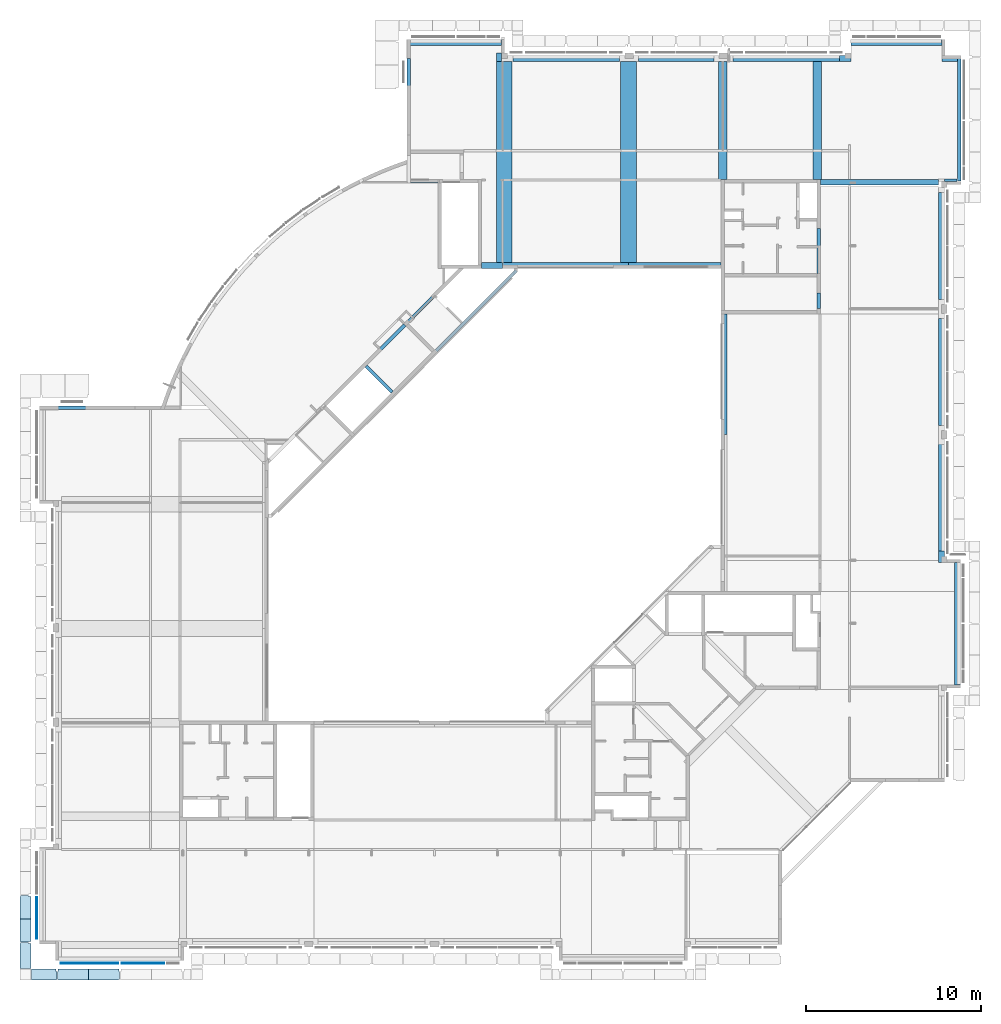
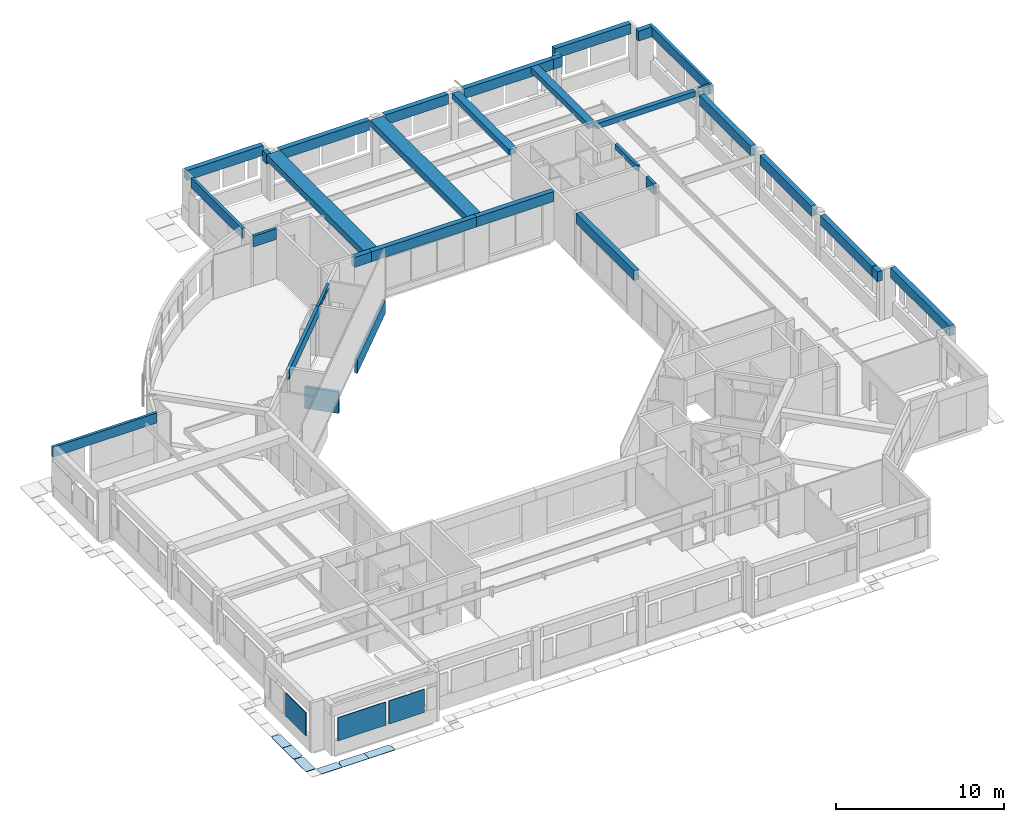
# One storey, part 3 of 26: 33 beams, 6 slabs, 3 plates, 1 element without a shape of its own.
"""IFC4X3_ADD2 building model written with IfcOpenShell, lengths in millimetres."""

from ifc_helpers import new_model, si_unit, direction, frame, frame_2d, origin_with_axes, origin_2d_with_axis, place, context, subcontext, project, spatial, polyline, rectangle, outline, extrude, source, transform, mapped, material, type_object, type_shapes, element, aggregate, save


model = new_model("IFC4X3_ADD2")

# Units and contexts
model_context = context("Model", 3, precision=1e-05, world=origin_with_axes(), true_north=direction((0.0, 1.0)))
body_context = subcontext(model_context, "Body", "Model", "MODEL_VIEW")
ifc_project = project(units=[si_unit("LENGTHUNIT", "METRE", prefix="MILLI"), si_unit("AREAUNIT", "SQUARE_METRE"), si_unit("VOLUMEUNIT", "CUBIC_METRE"), si_unit("PLANEANGLEUNIT", "RADIAN"), si_unit("TIMEUNIT", "SECOND"), si_unit("MASSUNIT", "GRAM")], contexts=[model_context])

# Site, building, storey
site_placement = place(None, origin_with_axes())
site = spatial("IfcSite", under=ifc_project, at=site_placement, Name="Site", CompositionType="ELEMENT")
building_placement = place(site_placement, origin_with_axes())
building = spatial("IfcBuilding", under=site, at=building_placement, Name="IFC Building Story")
storey_placement = place(building_placement, frame((0.0, 0.0, 7200.0), z_axis=(0.0, 0.0, 1.0), x_axis=(1.0, 0.0, 0.0)))
storey = spatial("IfcBuildingStorey", under=building, at=storey_placement, Name="020", Elevation=7200.0)

# Beams
ifc_material_1 = material(Name="BB_Beton_Bestaand")
beam_type_1 = type_object("IfcBeamType", Name="BB_XX_Betonbalk_ rechthoekig_ center-center_SFB_340 x 720 mm1", PredefinedType="NOTDEFINED")
shared_shape_1 = source(origin_with_axes(), body_context, "Body", "SweptSolid", [
    extrude(rectangle(XDim=5209.99999999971, YDim=340.0, at=origin_2d_with_axis()), frame((-1.450644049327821e-10, 0.0, -360.0), z_axis=(0.0, 0.0, 1.0), x_axis=(1.0, 0.0, 0.0)), (0.0, 0.0, 1.0), 720.0),
])
type_shapes(beam_type_1, [shared_shape_1])
beam_1_placement = place(storey_placement, frame((-2665.0, 51525.0, 3040.0), z_axis=(0.0, 0.0, 1.0), x_axis=(1.0, 0.0, 0.0)))
element("IfcBeam", 1, at=beam_1_placement, inside=storey, type_object=beam_type_1, material=ifc_material_1, Name="BB_XX_Betonbalk, rechthoekig, center-center_SFB:340 x 720 mm", ObjectType="340 x 720 mm", PredefinedType="BEAM", context=body_context, shape_type="MappedRepresentation", body=[
    mapped(shared_shape_1, transform((0.0, 0.0, 0.0))),
])
beam_type_2 = type_object("IfcBeamType", Name="BB_XX_Betonbalk_ rechthoekig_ center-center_SFB_340 x 720 mm33", PredefinedType="NOTDEFINED")
shared_shape_2 = source(origin_with_axes(), body_context, "Body", "SweptSolid", [
    extrude(rectangle(XDim=5299.99593411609, YDim=340.0, at=origin_2d_with_axis()), frame((-5.002220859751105e-12, 0.0, -360.0), z_axis=(0.0, 0.0, 1.0), x_axis=(1.0, 0.0, 0.0)), (0.0, 0.0, 1.0), 720.0),
])
type_shapes(beam_type_2, [shared_shape_2])
beam_2_placement = place(storey_placement, frame((-15350.002032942, 38775.0, 3040.0), z_axis=(0.0, 0.0, 1.0), x_axis=(-1.0, 0.0, 0.0)))
element("IfcBeam", 2, at=beam_2_placement, inside=storey, type_object=beam_type_2, material=ifc_material_1, Name="BB_XX_Betonbalk, rechthoekig, center-center_SFB:340 x 720 mm", ObjectType="340 x 720 mm", PredefinedType="BEAM", context=body_context, shape_type="MappedRepresentation", body=[
    mapped(shared_shape_2, transform((0.0, 0.0, 0.0))),
])
beam_type_3 = type_object("IfcBeamType", Name="BB_XX_Betonbalk_ rechthoekig_ center-center_SFB_340 x 720 mm55", PredefinedType="NOTDEFINED")
shared_shape_3 = source(origin_with_axes(), body_context, "Body", "SweptSolid", [
    extrude(rectangle(XDim=6900.00000000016, YDim=340.0, at=origin_2d_with_axis()), frame((-5.002220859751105e-12, 0.0, -360.0), z_axis=(0.0, 0.0, 1.0), x_axis=(1.0, 0.0, 0.0)), (0.0, 0.0, 1.0), 720.0),
])
type_shapes(beam_type_3, [shared_shape_3])
beam_3_placement = place(storey_placement, frame((-12525.0040658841, 32550.0, 3040.0), z_axis=(0.0, 0.0, 1.0), x_axis=(0.0, 1.0, 0.0)))
element("IfcBeam", 3, at=beam_3_placement, inside=storey, type_object=beam_type_3, material=ifc_material_1, Name="BB_XX_Betonbalk, rechthoekig, center-center_SFB:340 x 720 mm", ObjectType="340 x 720 mm", PredefinedType="BEAM", context=body_context, shape_type="MappedRepresentation", body=[
    mapped(shared_shape_3, transform((0.0, 0.0, 0.0))),
])
beam_type_4 = type_object("IfcBeamType", Name="BB_XX_Betonbalk_ rechthoekig_ center-center_SFB_200 x 380 mm", PredefinedType="NOTDEFINED")
shared_shape_4 = source(origin_with_axes(), body_context, "Body", "SweptSolid", [
    extrude(rectangle(XDim=2599.99999999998, YDim=200.0, at=origin_2d_with_axis()), frame((-1.000444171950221e-11, 0.0, -190.0), z_axis=(0.0, 0.0, 1.0), x_axis=(1.0, 0.0, 0.0)), (0.0, 0.0, 1.0), 380.0),
])
type_shapes(beam_type_4, [shared_shape_4])
beam_4_placement = place(storey_placement, frame((-7100.0, 39600.0, 3330.0), z_axis=(0.0, 0.0, 1.0), x_axis=(0.0, 1.0, 0.0)))
element("IfcBeam", 4, at=beam_4_placement, inside=storey, type_object=beam_type_4, material=ifc_material_1, Name="BB_XX_Betonbalk, rechthoekig, center-center_SFB:200 x 380 mm", ObjectType="200 x 380 mm", PredefinedType="BEAM", context=body_context, shape_type="MappedRepresentation", body=[
    mapped(shared_shape_4, transform((0.0, 0.0, 0.0))),
])

# Assembly, beam
assembly_placement = place(storey_placement, frame((0.0, 0.0, -7200.0), z_axis=(0.0, 0.0, 1.0), x_axis=(1.0, 0.0, 0.0)))
assembly = element("IfcElementAssembly", 5, at=assembly_placement, inside=storey, Name="Structural Connections Assembly:IPE360 + plaat", ObjectType="Structural Connections Assembly:IPE360 + plaat", AssemblyPlace="NOTDEFINED", PredefinedType="USERDEFINED")
ifc_material_2 = material(Name="Metal - Steel - 345 MPa")
beam_type_5 = type_object("IfcBeamType", Name="IPE-Beams_IPE360", PredefinedType="NOTDEFINED")
shared_shape_5 = source(origin_with_axes(), body_context, "Body", "SweptSolid", [
    extrude(outline(polyline([(179.9999999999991, 85.0), (179.9999999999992, -84.9999999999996), (167.3000000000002, -84.9999999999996), (167.3000000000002, -4.0), (-167.2999999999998, -4.0), (-167.2999999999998, -85.0), (-179.9999999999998, -85.0), (-179.9999999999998, 85.0), (-167.2999999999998, 85.0), (-167.2999999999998, 3.999999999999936), (167.3000000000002, 3.999999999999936), (167.3000000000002, 85.0), (179.9999999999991, 85.0)])), frame((-925.267324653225, 0.0, 0.0), z_axis=(1.0, 0.0, 0.0), x_axis=(0.0, 0.0, 1.0)), (0.0, 0.0, 1.0), 2419.99999999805),
])
type_shapes(beam_type_5, [shared_shape_5])
beam_5_placement = place(assembly_placement, frame((-29732.7817459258, 36421.6338417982, 10430.0), z_axis=(0.0, 0.0, 1.0), x_axis=(-0.7071067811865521, -0.707106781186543, 0.0)))
beam_5 = element("IfcBeam", 6, at=beam_5_placement, type_object=beam_type_5, material=ifc_material_2, Name="IPE-Beams:IPE360", ObjectType="IPE360", PredefinedType="BEAM", context=body_context, shape_type="MappedRepresentation", body=[
    mapped(shared_shape_5, transform((0.0, 0.0, 0.0))),
])
aggregate(assembly, [beam_5])

# Beams
beam_type_6 = type_object("IfcBeamType", Name="BB_XX_Betonbalk_ rechthoekig_ center-center_SFB_340 x 720 mm101", PredefinedType="NOTDEFINED")
shared_shape_6 = source(origin_with_axes(), body_context, "Body", "SweptSolid", [
    extrude(rectangle(XDim=6109.99999999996, YDim=340.0, at=origin_2d_with_axis()), frame((-5.002220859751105e-12, 0.0, -360.0), z_axis=(0.0, 0.0, 1.0), x_axis=(1.0, 0.0, 0.0)), (0.0, 0.0, 1.0), 720.0),
])
type_shapes(beam_type_6, [shared_shape_6])
for number, where, z_axis, x_axis in (
    (7, (-75.0, 25500.0, 3040.0), (0.0, 0.0, 1.0), (0.0, -1.0, 0.0)),
    (8, (-75.0, 32680.0, 3040.0), (0.0, 0.0, 1.0), (0.0, -1.0, 0.0)),
    (9, (-75.0, 39880.0, 3040.0), (0.0, 0.0, 1.0), (0.0, -1.0, 0.0)),
    (10, (-8965.0, 50625.0, 3040.0), (0.0, 0.0, 1.0), (1.0, 0.0, 0.0)),
):
    element("IfcBeam", number, at=place(storey_placement, frame(where, z_axis=z_axis, x_axis=x_axis)), inside=storey, type_object=beam_type_6, material=ifc_material_1, Name="BB_XX_Betonbalk, rechthoekig, center-center_SFB:340 x 720 mm", ObjectType="340 x 720 mm", PredefinedType="BEAM", context=body_context, shape_type="MappedRepresentation", body=[
        mapped(shared_shape_6, transform((0.0, 0.0, 0.0))),
    ])
beam_type_7 = type_object("IfcBeamType", Name="BB_XX_Betonbalk_ rechthoekig_ center-center_SFB_340 x 720 mm105", PredefinedType="NOTDEFINED")
shared_shape_7 = source(origin_with_axes(), body_context, "Body", "SweptSolid", [
    extrude(rectangle(XDim=4309.99999999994, YDim=340.0, at=origin_2d_with_axis()), frame((-5.002220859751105e-12, 0.0, -360.0), z_axis=(0.0, 0.0, 1.0), x_axis=(1.0, 0.0, 0.0)), (0.0, 0.0, 1.0), 720.0),
])
type_shapes(beam_type_7, [shared_shape_7])
beam_6_placement = place(storey_placement, frame((-15265.0, 50625.0, 3040.0), z_axis=(0.0, 0.0, 1.0), x_axis=(1.0, 0.0, 0.0)))
element("IfcBeam", 11, at=beam_6_placement, inside=storey, type_object=beam_type_7, material=ifc_material_1, Name="BB_XX_Betonbalk, rechthoekig, center-center_SFB:340 x 720 mm", ObjectType="340 x 720 mm", PredefinedType="BEAM", context=body_context, shape_type="MappedRepresentation", body=[
    mapped(shared_shape_7, transform((0.0, 0.0, 0.0))),
])
beam_type_8 = type_object("IfcBeamType", Name="BB_XX_Betonbalk_ rechthoekig_ center-center_SFB_340 x 720 mm117", PredefinedType="NOTDEFINED")
shared_shape_8 = source(origin_with_axes(), body_context, "Body", "SweptSolid", [
    extrude(rectangle(XDim=7010.0000000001, YDim=340.0, at=origin_2d_with_axis()), frame((-5.002220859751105e-12, 0.0, -360.0), z_axis=(0.0, 0.0, 1.0), x_axis=(1.0, 0.0, 0.0)), (0.0, 0.0, 1.0), 720.0),
])
type_shapes(beam_type_8, [shared_shape_8])
beam_7_placement = place(storey_placement, frame((825.0, 18280.0, 3040.0), z_axis=(0.0, 0.0, 1.0), x_axis=(0.0, -1.0, 0.0)))
element("IfcBeam", 12, at=beam_7_placement, inside=storey, type_object=beam_type_8, material=ifc_material_1, Name="BB_XX_Betonbalk, rechthoekig, center-center_SFB:340 x 720 mm", ObjectType="340 x 720 mm", PredefinedType="BEAM", context=body_context, shape_type="MappedRepresentation", body=[
    mapped(shared_shape_8, transform((0.0, 0.0, 0.0))),
])
beam_type_9 = type_object("IfcBeamType", Name="BB_XX_Betonbalk_ rechthoekig_ center-center_SFB_190 x 720 mm15", PredefinedType="NOTDEFINED")
shared_shape_9 = source(origin_with_axes(), body_context, "Body", "SweptSolid", [
    extrude(rectangle(XDim=7200.00000000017, YDim=190.0, at=origin_2d_with_axis()), frame((-5.002220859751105e-12, 0.0, -360.0), z_axis=(0.0, 0.0, 1.0), x_axis=(1.0, 0.0, 0.0)), (0.0, 0.0, 1.0), 720.0),
])
type_shapes(beam_type_9, [shared_shape_9])
beam_8_placement = place(storey_placement, frame((935.0, 47195.0, 3040.0), z_axis=(0.0, 0.0, 1.0), x_axis=(0.0, -1.0, 0.0)))
element("IfcBeam", 13, at=beam_8_placement, inside=storey, type_object=beam_type_9, material=ifc_material_1, Name="BB_XX_Betonbalk, rechthoekig, center-center_SFB:190 x 720 mm", ObjectType="190 x 720 mm", PredefinedType="BEAM", context=body_context, shape_type="MappedRepresentation", body=[
    mapped(shared_shape_9, transform((0.0, 0.0, 0.0))),
])
beam_type_10 = type_object("IfcBeamType", Name="BB_XX_Betonbalk_ rechthoekig_ center-center_SFB_190 x 720 mm17", PredefinedType="NOTDEFINED")
shared_shape_10 = source(origin_with_axes(), body_context, "Body", "SweptSolid", [
    extrude(rectangle(XDim=6094.55608940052, YDim=190.0, at=origin_2d_with_axis()), frame((-5.002220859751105e-12, 0.0, -360.0), z_axis=(0.0, 0.0, 1.0), x_axis=(1.0, 0.0, 0.0)), (0.0, 0.0, 1.0), 720.0),
])
type_shapes(beam_type_10, [shared_shape_10])
beam_9_placement = place(storey_placement, frame((-30565.0, 47557.7219552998, 3040.0), z_axis=(0.0, 0.0, 1.0), x_axis=(0.0, 1.0, 0.0)))
element("IfcBeam", 14, at=beam_9_placement, inside=storey, type_object=beam_type_10, material=ifc_material_1, Name="BB_XX_Betonbalk, rechthoekig, center-center_SFB:190 x 720 mm", ObjectType="190 x 720 mm", PredefinedType="BEAM", context=body_context, shape_type="MappedRepresentation", body=[
    mapped(shared_shape_10, transform((0.0, 0.0, 0.0))),
])
beam_type_11 = type_object("IfcBeamType", Name="BB_XX_Betonbalk_ rechthoekig_ center-center_SFB_340 x 720 mm147", PredefinedType="NOTDEFINED")
shared_shape_11 = source(origin_with_axes(), body_context, "Body", "SweptSolid", [
    extrude(rectangle(XDim=1200.00000000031, YDim=340.0, at=origin_2d_with_axis()), frame((1.450644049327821e-10, 0.0, -360.0), z_axis=(0.0, 0.0, 1.0), x_axis=(1.0, 0.0, 0.0)), (0.0, 0.0, 1.0), 720.0),
])
type_shapes(beam_type_11, [shared_shape_11])
beam_10_placement = place(storey_placement, frame((-25800.0, 38775.0, 3040.0), z_axis=(0.0, 0.0, 1.0), x_axis=(-1.0, 0.0, 0.0)))
element("IfcBeam", 15, at=beam_10_placement, inside=storey, type_object=beam_type_11, material=ifc_material_1, Name="BB_XX_Betonbalk, rechthoekig, center-center_SFB:340 x 720 mm", ObjectType="340 x 720 mm", PredefinedType="BEAM", context=body_context, shape_type="MappedRepresentation", body=[
    mapped(shared_shape_11, transform((0.0, 0.0, 0.0))),
])
beam_type_12 = type_object("IfcBeamType", Name="BB_XX_Betonbalk_ rechthoekig_ center-center_SFB_340 x 720 mm151", PredefinedType="NOTDEFINED")
shared_shape_12 = source(origin_with_axes(), body_context, "Body", "SweptSolid", [
    extrude(rectangle(XDim=900.000000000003, YDim=340.0, at=origin_2d_with_axis()), frame((-5.002220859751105e-12, 0.0, -360.0), z_axis=(0.0, 0.0, 1.0), x_axis=(1.0, 0.0, 0.0)), (0.0, 0.0, 1.0), 720.0),
])
type_shapes(beam_type_12, [shared_shape_12])
beam_11_placement = place(storey_placement, frame((390.0, 50625.0, 3040.0), z_axis=(0.0, 0.0, 1.0), x_axis=(1.0, 0.0, 0.0)))
element("IfcBeam", 16, at=beam_11_placement, inside=storey, type_object=beam_type_12, material=ifc_material_1, Name="BB_XX_Betonbalk, rechthoekig, center-center_SFB:340 x 720 mm", ObjectType="340 x 720 mm", PredefinedType="BEAM", context=body_context, shape_type="MappedRepresentation", body=[
    mapped(shared_shape_12, transform((0.0, 0.0, 0.0))),
])
beam_type_13 = type_object("IfcBeamType", Name="BB_XX_Betonbalk_ rechthoekig_ center-center_SFB_200 x 770 mm1", PredefinedType="NOTDEFINED")
shared_shape_13 = source(origin_with_axes(), body_context, "Body", "SweptSolid", [
    extrude(rectangle(XDim=910.000000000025, YDim=200.0, at=origin_2d_with_axis()), frame((1.250555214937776e-11, 0.0, -385.0), z_axis=(0.0, 0.0, 1.0), x_axis=(1.0, 0.0, 0.0)), (0.0, 0.0, 1.0), 770.0),
])
type_shapes(beam_type_13, [shared_shape_13])
beam_12_placement = place(storey_placement, frame((-7100.0, 36755.0, 3015.0), z_axis=(0.0, 0.0, 1.0), x_axis=(0.0, -1.0, 0.0)))
element("IfcBeam", 17, at=beam_12_placement, inside=storey, type_object=beam_type_13, material=ifc_material_1, Name="BB_XX_Betonbalk, rechthoekig, center-center_SFB:200 x 770 mm", ObjectType="200 x 770 mm", PredefinedType="BEAM", context=body_context, shape_type="MappedRepresentation", body=[
    mapped(shared_shape_13, transform((0.0, 0.0, 0.0))),
])
beam_type_14 = type_object("IfcBeamType", Name="BB_XX_Betonbalk_ rechthoekig_ center-center_SFB_190 x 1550 mm", PredefinedType="NOTDEFINED")
shared_shape_14 = source(origin_with_axes(), body_context, "Body", "SweptSolid", [
    extrude(rectangle(XDim=2099.99999999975, YDim=190.0, at=origin_2d_with_axis()), frame((-1.250555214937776e-10, 0.0, -775.0), z_axis=(0.0, 0.0, 1.0), x_axis=(1.0, 0.0, 0.0)), (0.0, 0.0, 1.0), 1550.0),
])
type_shapes(beam_type_14, [shared_shape_14])
beam_13_placement = place(storey_placement, frame((-32264.0349954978, 32264.0349954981, -975.0), z_axis=(0.0, 0.0, 1.0), x_axis=(-0.7071067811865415, 0.7071067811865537, 0.0)))
element("IfcBeam", 18, at=beam_13_placement, inside=storey, type_object=beam_type_14, material=ifc_material_1, Name="BB_XX_Betonbalk, rechthoekig, center-center_SFB:190 x 1550 mm", ObjectType="190 x 1550 mm", PredefinedType="BEAM", context=body_context, shape_type="MappedRepresentation", body=[
    mapped(shared_shape_14, transform((0.0, 0.0, 0.0))),
])
beam_type_15 = type_object("IfcBeamType", Name="BB_XX_Betonbalk_ rechthoekig_ center-center_SFB_340 x 720 mm179", PredefinedType="NOTDEFINED")
shared_shape_15 = source(origin_with_axes(), body_context, "Body", "SweptSolid", [
    extrude(rectangle(XDim=640.0000000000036, YDim=340.0, at=frame_2d((0.0, 0.0), x_axis=(0.0, 1.0))), frame((-75.0, 22105.0, 9880.0), z_axis=(0.0, 0.0, 1.0), x_axis=(1.0, 0.0, 0.0)), (0.0, 0.0, 1.0), 720.0),
])
type_shapes(beam_type_15, [shared_shape_15])
beam_14_placement = place(storey_placement, frame((0.0, 0.0, -7200.0), z_axis=(0.0, 0.0, 1.0), x_axis=(1.0, 0.0, 0.0)))
element("IfcBeam", 19, at=beam_14_placement, inside=storey, type_object=beam_type_15, material=ifc_material_1, Name="BB_XX_Betonbalk, rechthoekig, center-center_SFB:340 x 720 mm", ObjectType="340 x 720 mm", PredefinedType="BEAM", context=body_context, shape_type="MappedRepresentation", body=[
    mapped(shared_shape_15, transform((0.0, 0.0, 0.0))),
])
beam_type_16 = type_object("IfcBeamType", Name="BB_XX_Betonbalk_ rechthoekig_ center-center_SFB_340 x 720 mm181", PredefinedType="NOTDEFINED")
shared_shape_16 = source(origin_with_axes(), body_context, "Body", "SweptSolid", [
    extrude(rectangle(XDim=6109.99999999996, YDim=339.9999999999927, at=origin_2d_with_axis()), frame((-21565.00000000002, 50624.99999999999, 9880.0), z_axis=(0.0, 0.0, 1.0), x_axis=(1.0, 0.0, 0.0)), (0.0, 0.0, 1.0), 719.999999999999),
])
type_shapes(beam_type_16, [shared_shape_16])
beam_15_placement = place(storey_placement, frame((0.0, 0.0, -7200.0), z_axis=(0.0, 0.0, 1.0), x_axis=(1.0, 0.0, 0.0)))
element("IfcBeam", 20, at=beam_15_placement, inside=storey, type_object=beam_type_16, material=ifc_material_1, Name="BB_XX_Betonbalk, rechthoekig, center-center_SFB:340 x 720 mm", ObjectType="340 x 720 mm", PredefinedType="BEAM", context=body_context, shape_type="MappedRepresentation", body=[
    mapped(shared_shape_16, transform((0.0, 0.0, 0.0))),
])
beam_type_17 = type_object("IfcBeamType", Name="BB_XX_Betonbalk_ rechthoekig_ center-center_SFB_340 x 720 mm183", PredefinedType="NOTDEFINED")
shared_shape_17 = source(origin_with_axes(), body_context, "Body", "SweptSolid", [
    extrude(rectangle(XDim=640.0, YDim=339.9999999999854, at=origin_2d_with_axis()), frame((-5590.0, 50625.0, 9880.0), z_axis=(0.0, 0.0, 1.0), x_axis=(1.0, 0.0, 0.0)), (0.0, 0.0, 1.0), 720.0),
])
type_shapes(beam_type_17, [shared_shape_17])
beam_16_placement = place(storey_placement, frame((0.0, 0.0, -7200.0), z_axis=(0.0, 0.0, 1.0), x_axis=(1.0, 0.0, 0.0)))
element("IfcBeam", 21, at=beam_16_placement, inside=storey, type_object=beam_type_17, material=ifc_material_1, Name="BB_XX_Betonbalk, rechthoekig, center-center_SFB:340 x 720 mm", ObjectType="340 x 720 mm", PredefinedType="BEAM", context=body_context, shape_type="MappedRepresentation", body=[
    mapped(shared_shape_17, transform((0.0, 0.0, 0.0))),
])
beam_type_18 = type_object("IfcBeamType", Name="BB_XX_Betonbalk_ rechthoekig_ center-center_SFB_340 x 720 mm187", PredefinedType="NOTDEFINED")
shared_shape_18 = source(origin_with_axes(), body_context, "Body", "SweptSolid", [
    extrude(rectangle(XDim=5245.000000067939, YDim=340.0, at=origin_2d_with_axis()), frame((-27882.49999996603, 51524.99999999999, 9880.0), z_axis=(0.0, 0.0, 1.0), x_axis=(1.0, 0.0, 0.0)), (0.0, 0.0, 1.0), 720.0),
])
type_shapes(beam_type_18, [shared_shape_18])
beam_17_placement = place(storey_placement, frame((0.0, 0.0, -7200.0), z_axis=(0.0, 0.0, 1.0), x_axis=(1.0, 0.0, 0.0)))
element("IfcBeam", 22, at=beam_17_placement, inside=storey, type_object=beam_type_18, material=ifc_material_1, Name="BB_XX_Betonbalk, rechthoekig, center-center_SFB:340 x 720 mm", ObjectType="340 x 720 mm", PredefinedType="BEAM", context=body_context, shape_type="MappedRepresentation", body=[
    mapped(shared_shape_18, transform((0.0, 0.0, 0.0))),
])
beam_type_19 = type_object("IfcBeamType", Name="BB_XX_Betonbalk_ rechthoekig_ center-center_SFB_190 x 720 mm27", PredefinedType="NOTDEFINED")
shared_shape_19 = source(origin_with_axes(), body_context, "Body", "SweptSolid", [
    extrude(rectangle(XDim=7121.369563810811, YDim=190.0, at=origin_2d_with_axis()), frame((-48134.3152180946, 30629.86980580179, 9880.0), z_axis=(0.0, 0.0, 1.0), x_axis=(1.0, 0.0, 0.0)), (0.0, 0.0, 1.0), 720.000000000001),
])
type_shapes(beam_type_19, [shared_shape_19])
beam_18_placement = place(storey_placement, frame((0.0, 0.0, -7200.0), z_axis=(0.0, 0.0, 1.0), x_axis=(1.0, 0.0, 0.0)))
element("IfcBeam", 23, at=beam_18_placement, inside=storey, type_object=beam_type_19, material=ifc_material_1, Name="BB_XX_Betonbalk, rechthoekig, center-center_SFB:190 x 720 mm", ObjectType="190 x 720 mm", PredefinedType="BEAM", context=body_context, shape_type="MappedRepresentation", body=[
    mapped(shared_shape_19, transform((0.0, 0.0, 0.0))),
])
beam_type_20 = type_object("IfcBeamType", Name="BB_XX_Betonbalk_ rechthoekig_ center-center_SFB_340 x 720 mm195", PredefinedType="NOTDEFINED")
shared_shape_20 = source(origin_with_axes(), body_context, "Body", "SweptSolid", [
    extrude(rectangle(XDim=7200.0, YDim=340.0, at=origin_2d_with_axis()), frame((-21600.0, 38774.99593411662, 9880.0), z_axis=(0.0, 0.0, 1.0), x_axis=(1.0, 0.0, 0.0)), (0.0, 0.0, 1.0), 720.0),
])
type_shapes(beam_type_20, [shared_shape_20])
beam_19_placement = place(storey_placement, frame((0.0, 0.0, -7200.0), z_axis=(0.0, 0.0, 1.0), x_axis=(1.0, 0.0, 0.0)))
element("IfcBeam", 24, at=beam_19_placement, inside=storey, type_object=beam_type_20, material=ifc_material_1, Name="BB_XX_Betonbalk, rechthoekig, center-center_SFB:340 x 720 mm", ObjectType="340 x 720 mm", PredefinedType="BEAM", context=body_context, shape_type="MappedRepresentation", body=[
    mapped(shared_shape_20, transform((0.0, 0.0, 0.0))),
])
beam_type_21 = type_object("IfcBeamType", Name="BB_XX_Betonbalk_ rechthoekig_ center-center_SFB_150 x 720 mm7", PredefinedType="NOTDEFINED")
shared_shape_21 = source(origin_with_axes(), body_context, "Body", "SweptSolid", [
    extrude(rectangle(XDim=710.000000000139, YDim=150.0, at=origin_2d_with_axis()), frame((450.0000000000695, 43650.0, 9880.0), z_axis=(0.0, 0.0, 1.0), x_axis=(1.0, 0.0, 0.0)), (0.0, 0.0, 1.0), 720.0),
])
type_shapes(beam_type_21, [shared_shape_21])
beam_20_placement = place(storey_placement, frame((0.0, 0.0, -7200.0), z_axis=(0.0, 0.0, 1.0), x_axis=(1.0, 0.0, 0.0)))
element("IfcBeam", 25, at=beam_20_placement, inside=storey, type_object=beam_type_21, material=ifc_material_1, Name="BB_XX_Betonbalk, rechthoekig, center-center_SFB:150 x 720 mm", ObjectType="150 x 720 mm", PredefinedType="BEAM", context=body_context, shape_type="MappedRepresentation", body=[
    mapped(shared_shape_21, transform((0.0, 0.0, 0.0))),
])
beam_type_22 = type_object("IfcBeamType", Name="BB_XX_Betonbalk_ rechthoekig_ center-center_SFB_200 x 770 mm5", PredefinedType="NOTDEFINED")
shared_shape_22 = source(origin_with_axes(), body_context, "Body", "SweptSolid", [
    extrude(rectangle(XDim=1570.00000006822, YDim=200.0, at=origin_2d_with_axis()), frame((-4.99999996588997, 0.0, -385.0), z_axis=(0.0, 0.0, 1.0), x_axis=(1.0, 0.0, 0.0)), (0.0, 0.0, 1.0), 770.0),
])
type_shapes(beam_type_22, [shared_shape_22])
beam_21_placement = place(storey_placement, frame((-29680.0, 43600.0, 3015.0), z_axis=(0.0, 0.0, 1.0), x_axis=(1.0, 0.0, 0.0)))
element("IfcBeam", 26, at=beam_21_placement, inside=storey, type_object=beam_type_22, material=ifc_material_1, Name="BB_XX_Betonbalk, rechthoekig, center-center_SFB:200 x 770 mm", ObjectType="200 x 770 mm", PredefinedType="BEAM", context=body_context, shape_type="MappedRepresentation", body=[
    mapped(shared_shape_22, transform((0.0, 0.0, 0.0))),
])
beam_type_23 = type_object("IfcBeamType", Name="BB_XX_Betonbalk_ rechthoekig_ center-center_SFB_900 x 480 mm1", PredefinedType="NOTDEFINED")
shared_shape_23 = source(origin_with_axes(), body_context, "Body", "SweptSolid", [
    extrude(rectangle(XDim=11509.9999999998, YDim=900.0, at=origin_2d_with_axis()), frame((-1.000444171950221e-11, 0.0, -240.0), z_axis=(0.0, 0.0, 1.0), x_axis=(1.0, 0.0, 0.0)), (0.0, 0.0, 1.0), 480.0),
])
type_shapes(beam_type_23, [shared_shape_23])
for number, where, z_axis, x_axis in (
    (27, (-25110.021216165, 44701.218475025, 3160.0), (0.0, 0.0, 1.0), (0.0, -1.0, 0.0)),
    (28, (-18000.0, 44700.0, 3160.0), (0.0, 0.0, 1.0), (0.0, -1.0, 0.0)),
):
    element("IfcBeam", number, at=place(storey_placement, frame(where, z_axis=z_axis, x_axis=x_axis)), inside=storey, type_object=beam_type_23, material=ifc_material_1, Name="BB_XX_Betonbalk, rechthoekig, center-center_SFB:900 x 480 mm", ObjectType="900 x 480 mm", PredefinedType="BEAM", context=body_context, shape_type="MappedRepresentation", body=[
        mapped(shared_shape_23, transform((0.0, 0.0, 0.0))),
    ])
beam_type_24 = type_object("IfcBeamType", Name="BB_XX_Betonbalk_ rechthoekig_ center-center_SFB_300 x 720 mm5", PredefinedType="NOTDEFINED")
shared_shape_24 = source(origin_with_axes(), body_context, "Body", "SweptSolid", [
    extrude(rectangle(XDim=489.999999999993, YDim=300.0, at=origin_2d_with_axis()), frame((-5.002220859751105e-12, 0.0, -360.0), z_axis=(0.0, 0.0, 1.0), x_axis=(1.0, 0.0, 0.0)), (0.0, 0.0, 1.0), 720.0),
])
type_shapes(beam_type_24, [shared_shape_24])
beam_22_placement = place(storey_placement, frame((-25410.0, 50700.0, 3040.0), z_axis=(0.0, 0.0, 1.0), x_axis=(0.0, 1.0, 0.0)))
element("IfcBeam", 29, at=beam_22_placement, inside=storey, type_object=beam_type_24, material=ifc_material_1, Name="BB_XX_Betonbalk, rechthoekig, center-center_SFB:300 x 720 mm", ObjectType="300 x 720 mm", PredefinedType="BEAM", context=body_context, shape_type="MappedRepresentation", body=[
    mapped(shared_shape_24, transform((0.0, 0.0, 0.0))),
])
beam_type_25 = type_object("IfcBeamType", Name="BB_XX_Betonbalk_ rechthoekig_ center-center_SFB_500 x 400 mm3", PredefinedType="NOTDEFINED")
shared_shape_25 = source(origin_with_axes(), body_context, "Body", "SweptSolid", [
    extrude(rectangle(XDim=6765.00000000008, YDim=500.0, at=origin_2d_with_axis()), frame((0.0, 0.0, -200.0), z_axis=(0.0, 0.0, 1.0), x_axis=(1.0, 0.0, 0.0)), (0.0, 0.0, 1.0), 399.9999999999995),
])
type_shapes(beam_type_25, [shared_shape_25])
beam_23_placement = place(storey_placement, frame((-12600.0, 47072.5, 3200.0), z_axis=(0.0, 0.0, 1.0), x_axis=(0.0, -1.0, 0.0)))
element("IfcBeam", 30, at=beam_23_placement, inside=storey, type_object=beam_type_25, material=ifc_material_1, Name="BB_XX_Betonbalk, rechthoekig, center-center_SFB:500 x 400 mm", ObjectType="400 x 500 mm", PredefinedType="BEAM", context=body_context, shape_type="MappedRepresentation", body=[
    mapped(shared_shape_25, transform((0.0, 0.0, 0.0))),
])
beam_type_26 = type_object("IfcBeamType", Name="BB_XX_Betonbalk_ rechthoekig_ center-center_SFB_500 x 400 mm5", PredefinedType="NOTDEFINED")
shared_shape_26 = source(origin_with_axes(), body_context, "Body", "SweptSolid", [
    extrude(rectangle(XDim=6765.00000000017, YDim=500.0, at=origin_2d_with_axis()), frame((5.000000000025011, 0.0, -200.0), z_axis=(0.0, 0.0, 1.0), x_axis=(1.0, 0.0, 0.0)), (0.0, 0.0, 1.0), 399.9999999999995),
])
type_shapes(beam_type_26, [shared_shape_26])
beam_24_placement = place(storey_placement, frame((-7200.0, 47077.5, 3200.0), z_axis=(0.0, 0.0, 1.0), x_axis=(0.0, -1.0, 0.0)))
element("IfcBeam", 31, at=beam_24_placement, inside=storey, type_object=beam_type_26, material=ifc_material_1, Name="BB_XX_Betonbalk, rechthoekig, center-center_SFB:500 x 400 mm", ObjectType="400 x 500 mm", PredefinedType="BEAM", context=body_context, shape_type="MappedRepresentation", body=[
    mapped(shared_shape_26, transform((0.0, 0.0, 0.0))),
])
beam_type_27 = type_object("IfcBeamType", Name="BB_XX_Betonbalk_ rechthoekig_ center-center_SFB_300 x 390 mm1", PredefinedType="NOTDEFINED")
shared_shape_27 = source(origin_with_axes(), body_context, "Body", "SweptSolid", [
    extrude(rectangle(XDim=6755.00000000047, YDim=300.0, at=origin_2d_with_axis()), frame((-3622.500000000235, 43540.00000000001, 10210.0), z_axis=(0.0, 0.0, 1.0), x_axis=(1.0, 0.0, 0.0)), (0.0, 0.0, 1.0), 390.0),
])
type_shapes(beam_type_27, [shared_shape_27])
beam_25_placement = place(storey_placement, frame((0.0, 0.0, -7200.0), z_axis=(0.0, 0.0, 1.0), x_axis=(1.0, 0.0, 0.0)))
element("IfcBeam", 32, at=beam_25_placement, inside=storey, type_object=beam_type_27, material=ifc_material_1, Name="BB_XX_Betonbalk, rechthoekig, center-center_SFB:300 x 390 mm", ObjectType="300 x 390 mm", PredefinedType="BEAM", context=body_context, shape_type="MappedRepresentation", body=[
    mapped(shared_shape_27, transform((0.0, 0.0, 0.0))),
])
beam_type_28 = type_object("IfcBeamType", Name="BB_XX_Betonbalk_ rechthoekig_ center-center_SFB_200 x 720 mm39", PredefinedType="NOTDEFINED")
shared_shape_28 = source(origin_with_axes(), body_context, "Body", "SweptSolid", [
    extrude(rectangle(XDim=7109.99999939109, YDim=200.0, at=frame_2d((0.0, 0.0), x_axis=(0.7071067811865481, 0.7071067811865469))), frame((-33077.20779407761, 33077.2077936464, 9880.0), z_axis=(0.0, 0.0, 1.0), x_axis=(1.0, 0.0, 0.0)), (0.0, 0.0, 1.0), 720.0),
])
type_shapes(beam_type_28, [shared_shape_28])
beam_26_placement = place(storey_placement, frame((0.0, 0.0, -7200.0), z_axis=(0.0, 0.0, 1.0), x_axis=(1.0, 0.0, 0.0)))
element("IfcBeam", 33, at=beam_26_placement, inside=storey, type_object=beam_type_28, material=ifc_material_1, Name="BB_XX_Betonbalk, rechthoekig, center-center_SFB:200 x 720 mm", ObjectType="200 x 720 mm", PredefinedType="BEAM", context=body_context, shape_type="MappedRepresentation", body=[
    mapped(shared_shape_28, transform((0.0, 0.0, 0.0))),
])
beam_type_29 = type_object("IfcBeamType", Name="BB_XX_Betonbalk_ rechthoekig_ center-center_SFB_190 x 1000 mm1", PredefinedType="NOTDEFINED")
shared_shape_29 = source(origin_with_axes(), body_context, "Body", "SweptSolid", [
    extrude(rectangle(XDim=6492.746210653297, YDim=189.9999999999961, at=frame_2d((0.0, 0.0), x_axis=(0.7071067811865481, 0.7071067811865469))), frame((-26715.79254333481, 36178.8231397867, 6000.0), z_axis=(0.0, 0.0, 1.0), x_axis=(1.0, 0.0, 0.0)), (0.0, 0.0, 1.0), 1000.0),
])
type_shapes(beam_type_29, [shared_shape_29])
beam_27_placement = place(storey_placement, frame((0.0, 0.0, -7200.0), z_axis=(0.0, 0.0, 1.0), x_axis=(1.0, 0.0, 0.0)))
element("IfcBeam", 34, at=beam_27_placement, inside=storey, type_object=beam_type_29, material=ifc_material_1, Name="BB_XX_Betonbalk, rechthoekig, center-center_SFB:190 x 1000 mm", ObjectType="190 x 1000 mm", PredefinedType="BEAM", context=body_context, shape_type="MappedRepresentation", body=[
    mapped(shared_shape_29, transform((0.0, 0.0, 0.0))),
])

# Plates
ifc_material_3 = material(Name="BB_Glas")
shared_shape_30 = source(origin_with_axes(), body_context, "Body", "SweptSolid", [
    extrude(rectangle(XDim=2432.0, YDim=1680.000000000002, at=origin_2d_with_axis()), frame((0.0, 0.0, -44.0), z_axis=(0.0, 0.0, 1.0), x_axis=(1.0, 0.0, 0.0)), (0.0, 0.0, 1.0), 44.0),
])
plate_1_placement = place(storey_placement, frame((-45784.0, -1187.49999999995, 1765.0), z_axis=(0.0, -1.0, 0.0), x_axis=(-1.0, 0.0, 0.0)))
element("IfcPlate", 35, at=plate_1_placement, inside=storey, material=ifc_material_3, Name="BB_07.06_Buitenbeglazing, rechthoekig_GMO:07.06.72#01_Drievoudige beglazing, 44 mm, A/A*/A", ObjectType="BB_07.06_Buitenbeglazing, rechthoekig_GMO:07.06.72#01_Drievoudige beglazing, 44 mm, A/A*/A", PredefinedType="USERDEFINED", context=body_context, shape_type="MappedRepresentation", body=[
    mapped(shared_shape_30, transform((0.0, 0.0, 0.0))),
])
shared_shape_31 = source(origin_with_axes(), body_context, "Body", "SweptSolid", [
    extrude(rectangle(XDim=3300.0, YDim=1680.000000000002, at=origin_2d_with_axis()), frame((0.0, 0.0, -44.0), z_axis=(0.0, 0.0, 1.0), x_axis=(1.0, 0.0, 0.0)), (0.0, 0.0, 1.0), 44.0),
])
plate_2_placement = place(storey_placement, frame((-48850.0, -1187.49999999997, 1765.0), z_axis=(0.0, -1.0, 0.0), x_axis=(-1.0, 0.0, 0.0)))
element("IfcPlate", 36, at=plate_2_placement, inside=storey, material=ifc_material_3, Name="BB_07.06_Buitenbeglazing, rechthoekig_GMO:07.06.72#01_Drievoudige beglazing, 44 mm, A/A*/A", ObjectType="BB_07.06_Buitenbeglazing, rechthoekig_GMO:07.06.72#01_Drievoudige beglazing, 44 mm, A/A*/A", PredefinedType="USERDEFINED", context=body_context, shape_type="MappedRepresentation", body=[
    mapped(shared_shape_31, transform((0.0, 0.0, 0.0))),
])
shared_shape_32 = source(origin_with_axes(), body_context, "Body", "SweptSolid", [
    extrude(rectangle(XDim=2400.0, YDim=1680.000000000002, at=origin_2d_with_axis()), frame((0.0, 0.0, -44.0), z_axis=(0.0, 0.0, 1.0), x_axis=(1.0, 0.0, 0.0)), (0.0, 0.0, 1.0), 44.0),
])
plate_3_placement = place(storey_placement, frame((-51887.5000000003, 1430.0, 1765.0), z_axis=(-1.0, 0.0, 0.0), x_axis=(0.0, -1.0, 0.0)))
element("IfcPlate", 37, at=plate_3_placement, inside=storey, material=ifc_material_3, Name="BB_07.06_Buitenbeglazing, rechthoekig_GMO:07.06.72#01_Drievoudige beglazing, 44 mm, A/A*/A", ObjectType="BB_07.06_Buitenbeglazing, rechthoekig_GMO:07.06.72#01_Drievoudige beglazing, 44 mm, A/A*/A", PredefinedType="USERDEFINED", context=body_context, shape_type="MappedRepresentation", body=[
    mapped(shared_shape_32, transform((0.0, 0.0, 0.0))),
])

# Slabs
ifc_material_4 = material(Name="Steel, Galvanized - looprooster")
slab_type = type_object("IfcSlabType", Name="Steel, Galvanized - looprooster 30", PredefinedType="FLOOR", material=ifc_material_4)
slab_1_placement = place(storey_placement, frame((-52819.99783771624, 2714.999963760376, -350.0), z_axis=(0.0, 0.0, 1.0), x_axis=(0.0, -1.0, 0.0)))
element("IfcSlab", 38, at=slab_1_placement, inside=storey, type_object=slab_type, Name="Floor:GVH - Looprooster 30 mm", ObjectType="Floor:GVH - Looprooster 30 mm", PredefinedType="FLOOR", context=body_context, shape_type="SweptSolid", body=[
    extrude(outline(polyline([(-316.5004999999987, 347.5013254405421), (966.501499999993, 347.5013254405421), (966.501499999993, -282.4986745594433), (-281.5004999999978, -282.4986745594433), (-281.5004999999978, -267.5009748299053), (-368.500499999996, -267.5009748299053), (-368.500499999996, 202.4983239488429), (-316.5004999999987, 202.4983239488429), (-316.5004999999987, 347.5013254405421)])), frame((368.500499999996, 282.4986745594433, 0.0), z_axis=(0.0, 0.0, 1.0), x_axis=(1.0, 0.0, 0.0)), (0.0, 0.0, 1.0), 29.99999999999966),
])
slab_2_placement = place(storey_placement, frame((-52819.99783771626, 1379.497963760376, -350.0), z_axis=(0.0, 0.0, 1.0), x_axis=(0.0, -1.0, 0.0)))
element("IfcSlab", 39, at=slab_2_placement, inside=storey, type_object=slab_type, Name="Floor:GVH - Looprooster 30 mm", ObjectType="Floor:GVH - Looprooster 30 mm", PredefinedType="FLOOR", context=body_context, shape_type="SweptSolid", body=[
    extrude(outline(polyline([(359.626449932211, -267.5009748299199), (307.6226502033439, -267.5009748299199), (307.6226502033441, -282.4986745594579), (-974.8755500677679, -282.4986745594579), (-974.875550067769, 347.5013254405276), (307.6264499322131, 347.5013254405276), (307.626449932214, 202.4983239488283), (359.626449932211, 202.4983239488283), (359.626449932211, -267.5009748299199)])), frame((974.875550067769, 282.4986745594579, 0.0), z_axis=(0.0, 0.0, 1.0), x_axis=(1.0, 0.0, 0.0)), (0.0, 0.0, 1.0), 29.99999999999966),
])
slab_3_placement = place(storey_placement, frame((-52819.99783771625, 14.99996376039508, -350.0), z_axis=(0.0, 0.0, 1.0), x_axis=(0.0, -1.0, 0.0)))
element("IfcSlab", 40, at=slab_3_placement, inside=storey, type_object=slab_type, Name="Floor:GVH - Looprooster 30 mm", ObjectType="Floor:GVH - Looprooster 30 mm", PredefinedType="FLOOR", context=body_context, shape_type="SweptSolid", body=[
    extrude(outline(polyline([(-340.6246271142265, 347.5013254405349), (1073.87407780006, 347.5013254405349), (1073.87407780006, -282.4986745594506), (-340.6248235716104, -282.4986745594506), (-340.6248235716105, -267.5009748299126), (-392.6246271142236, -267.5009748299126), (-392.6246271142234, 202.4983239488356), (-340.6246271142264, 202.4983239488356), (-340.6246271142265, 347.5013254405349)])), frame((392.6246271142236, 282.4986745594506, 0.0), z_axis=(0.0, 0.0, 1.0), x_axis=(1.0, 0.0, 0.0)), (0.0, 0.0, 1.0), 29.99999999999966),
])
slab_4_placement = place(storey_placement, frame((-52151.49839785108, -2119.998397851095, -350.0), z_axis=(0.0, 0.0, 1.0), x_axis=(1.0, 0.0, 0.0)))
element("IfcSlab", 41, at=slab_4_placement, inside=storey, type_object=slab_type, Name="Floor:GVH - Looprooster 30 mm", ObjectType="Floor:GVH - Looprooster 30 mm", PredefinedType="FLOOR", context=body_context, shape_type="SweptSolid", body=[
    extrude(outline(polyline([(333.1246085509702, -267.4995632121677), (333.1246085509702, -282.4992199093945), (-1051.373825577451, -282.4992199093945), (-1051.373825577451, 347.5004367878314), (333.1246085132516, 347.5004367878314), (333.1246085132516, 202.4983463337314), (385.1246085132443, 202.4983463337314), (385.1246085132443, -267.4995632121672), (333.1246085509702, -267.4995632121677)])), frame((1051.373825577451, 282.4992199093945, 0.0), z_axis=(0.0, 0.0, 1.0), x_axis=(1.0, 0.0, 0.0)), (0.0, 0.0, 1.0), 29.99999999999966),
])
slab_5_placement = place(storey_placement, frame((-50684.99600000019, -2119.998397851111, -350.0), z_axis=(0.0, 0.0, 1.0), x_axis=(1.0, 0.0, 0.0)))
element("IfcSlab", 42, at=slab_5_placement, inside=storey, type_object=slab_type, Name="Floor:GVH - Looprooster 30 mm", ObjectType="Floor:GVH - Looprooster 30 mm", PredefinedType="FLOOR", context=body_context, shape_type="SweptSolid", body=[
    extrude(outline(polyline([(-420.2524637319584, -282.4992180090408), (-420.2524637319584, -267.4995613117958), (-472.2485000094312, -267.4995613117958), (-472.2485000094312, 202.4983406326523), (-420.2485362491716, 202.4983406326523), (-420.2485362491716, 347.5004386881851), (1312.749499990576, 347.5004386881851), (1312.749499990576, -282.4992180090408), (-420.2524637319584, -282.4992180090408)])), frame((472.2485000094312, 282.4992180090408, 0.0), z_axis=(0.0, 0.0, 1.0), x_axis=(1.0, 0.0, 0.0)), (0.0, 0.0, 1.0), 29.99999999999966),
])
slab_6_placement = place(storey_placement, frame((-48899.49639785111, -2119.998397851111, -350.0), z_axis=(0.0, 0.0, 1.0), x_axis=(1.0, 0.0, 0.0)))
element("IfcSlab", 43, at=slab_6_placement, inside=storey, type_object=slab_type, Name="Floor:GVH - Looprooster 30 mm", ObjectType="Floor:GVH - Looprooster 30 mm", PredefinedType="FLOOR", context=body_context, shape_type="SweptSolid", body=[
    extrude(outline(polyline([(393.8741175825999, -267.499561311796), (393.8741175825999, -282.499218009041), (-1303.62231650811, -282.499218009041), (-1303.62231650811, 347.5004386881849), (428.874117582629, 347.5004386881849), (428.874117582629, 202.4983406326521), (480.8740813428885, 202.4983406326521), (480.8740813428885, -267.499561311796), (393.8741175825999, -267.499561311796)])), frame((1303.62231650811, 282.499218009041, 0.0), z_axis=(0.0, 0.0, 1.0), x_axis=(1.0, 0.0, 0.0)), (0.0, 0.0, 1.0), 29.99999999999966),
])

save(model, "model.ifc")
